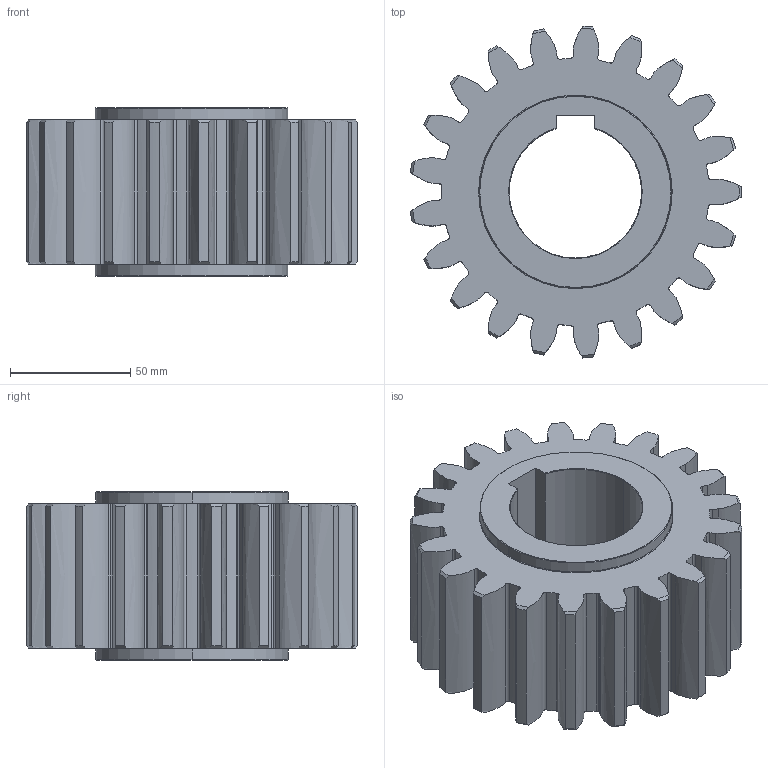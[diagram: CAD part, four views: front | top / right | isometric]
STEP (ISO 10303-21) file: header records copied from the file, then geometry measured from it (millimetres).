
FILE_DESCRIPTION (( 'STEP AP214' ), '1' );
FILE_NAME ('1SG__S060021S.STEP', '2021-08-03T07:55:41', ( '' ), ( '' ), 'SwSTEP 2.0', 'SolidWorks 2021', '' );
FILE_SCHEMA (( 'AUTOMOTIVE_DESIGN' ));
Length unit declared in the file: millimetre
Products named in the file (1): 1SG__S060021S
Bounding box: 137.51 x 137.86 x 70 mm (x, y, z)
Volume: 609768.6 mm3; surface area: 83012.8 mm2
Topology: 1 solids, 1 shells, 230 faces, 708 edges, 482 vertices
Faces by surface type: cylinder 82, bspline 63, cone 53, plane 28, torus 4
Entity records: 14571 total; most frequent: CARTESIAN_POINT 8447, ORIENTED_EDGE 1416, DIRECTION 1140, EDGE_CURVE 708, VERTEX_POINT 482, AXIS2_PLACEMENT_3D 436, CIRCLE 268, LINE 268
